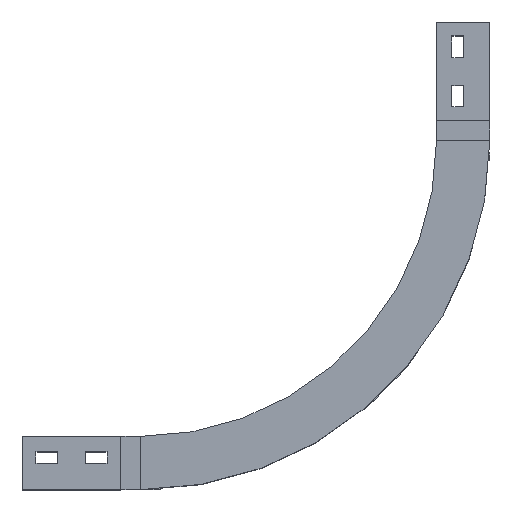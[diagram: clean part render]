
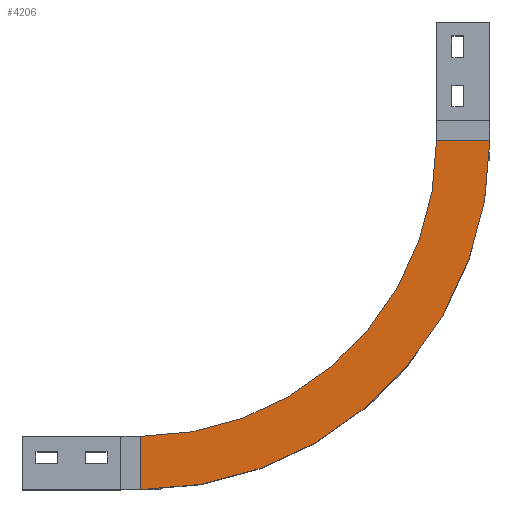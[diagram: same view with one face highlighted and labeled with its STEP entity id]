
A CAD part, top view. The second image highlights one B-rep face of the part: STEP entity #4206.
In plain terms, the highlighted planar face has unit normal (0, 0, 1).
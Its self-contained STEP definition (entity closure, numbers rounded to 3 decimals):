
#229=CIRCLE('',#4443,300.);
#230=CIRCLE('',#4444,354.);
#382=FACE_OUTER_BOUND('',#606,.T.);
#606=EDGE_LOOP('',(#2837,#2838,#2839,#2840));
#893=LINE('',#5906,#1353);
#897=LINE('',#5917,#1357);
#1353=VECTOR('',#4779,304.8);
#1357=VECTOR('',#4789,304.8);
#1813=VERTEX_POINT('',#5904);
#1814=VERTEX_POINT('',#5905);
#1817=VERTEX_POINT('',#5913);
#1818=VERTEX_POINT('',#5915);
#2221=EDGE_CURVE('',#1813,#1814,#893,.T.);
#2225=EDGE_CURVE('',#1817,#1814,#229,.T.);
#2226=EDGE_CURVE('',#1813,#1818,#230,.T.);
#2227=EDGE_CURVE('',#1817,#1818,#897,.T.);
#2837=ORIENTED_EDGE('',*,*,#2225,.T.);
#2838=ORIENTED_EDGE('',*,*,#2221,.F.);
#2839=ORIENTED_EDGE('',*,*,#2226,.T.);
#2840=ORIENTED_EDGE('',*,*,#2227,.F.);
#4058=PLANE('',#4442);
#4206=ADVANCED_FACE('',(#382),#4058,.T.);
#4442=AXIS2_PLACEMENT_3D('',#5912,#4783,#4784);
#4443=AXIS2_PLACEMENT_3D('',#5914,#4785,#4786);
#4444=AXIS2_PLACEMENT_3D('',#5916,#4787,#4788);
#4779=DIRECTION('',(0.,1.,0.));
#4783=DIRECTION('center_axis',(0.,0.,1.));
#4784=DIRECTION('ref_axis',(0.,-1.,0.));
#4785=DIRECTION('center_axis',(0.,0.,-1.));
#4786=DIRECTION('ref_axis',(0.,-1.,0.));
#4787=DIRECTION('center_axis',(0.,0.,1.));
#4788=DIRECTION('ref_axis',(0.,-1.,0.));
#4789=DIRECTION('',(1.,0.,0.));
#5904=CARTESIAN_POINT('',(-327.,-27.,105.5));
#5905=CARTESIAN_POINT('',(-327.,27.,105.5));
#5906=CARTESIAN_POINT('',(-327.,-27.,105.5));
#5912=CARTESIAN_POINT('Origin',(-327.,327.,105.5));
#5913=CARTESIAN_POINT('',(-27.,327.,105.5));
#5914=CARTESIAN_POINT('Origin',(-327.,327.,105.5));
#5915=CARTESIAN_POINT('',(27.,327.,105.5));
#5916=CARTESIAN_POINT('Origin',(-327.,327.,105.5));
#5917=CARTESIAN_POINT('',(-27.,327.,105.5));
